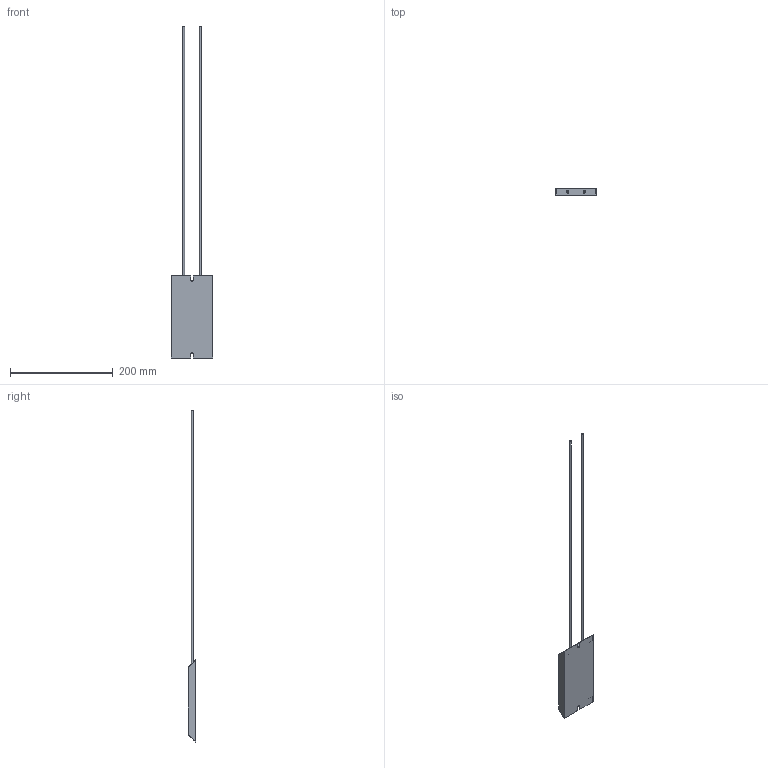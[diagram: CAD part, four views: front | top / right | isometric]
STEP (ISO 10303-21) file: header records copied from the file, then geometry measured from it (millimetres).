
FILE_DESCRIPTION(/* description */ (''),/* implementation_level */ '2;1');
FILE_NAME(/* name */ 'C:\_Vault\Dati\CATALOGO\RFD\RFDV200.stp',/* time_stamp */ '2014-03-24T18:27:31+01:00',/* author */ ('stefano'),/* organization */ (''),/* preprocessor_version */ 'ST-DEVELOPER v15.2',/* originating_system */ 'Autodesk Inventor 2014',/* authorisation */ '');
FILE_SCHEMA (('AUTOMOTIVE_DESIGN { 1 0 10303 214 3 1 1 }'));
Length unit declared in the file: millimetre
Products named in the file (1): RFDV200
Bounding box: 80 x 15 x 646.6 mm (x, y, z)
Volume: 175332 mm3; surface area: 44729.3 mm2
Topology: 1 solids, 1 shells, 28 faces, 66 edges, 44 vertices
Faces by surface type: plane 22, cylinder 6
Full cylindrical faces by diameter (mm): 2 x2, 4 x2
Entity records: 866 total; most frequent: CARTESIAN_POINT 135, DIRECTION 132, ORIENTED_EDGE 124, EDGE_CURVE 62, LINE 50, VECTOR 50, VERTEX_POINT 44, AXIS2_PLACEMENT_3D 41
